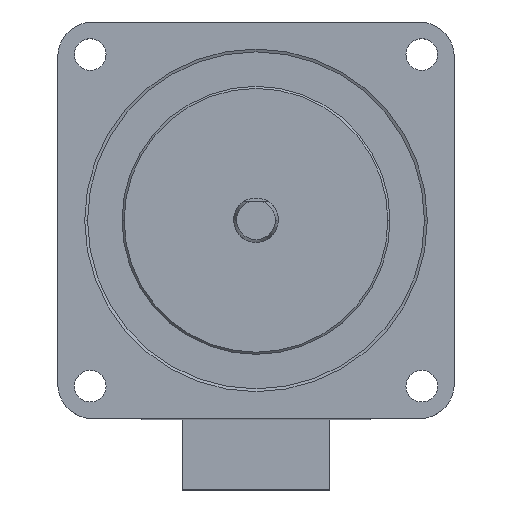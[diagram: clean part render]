
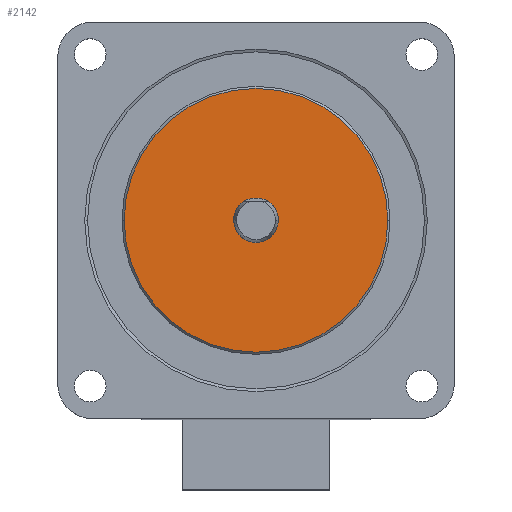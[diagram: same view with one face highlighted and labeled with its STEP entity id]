
A CAD part, top view. The second image highlights one B-rep face of the part: STEP entity #2142.
In plain terms, the highlighted planar face has unit normal (0, 0, 1).
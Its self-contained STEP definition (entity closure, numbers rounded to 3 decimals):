
#106 = DIRECTION ( 'NONE',  ( -1., 0., 0. ) ) ;
#118 = CARTESIAN_POINT ( 'NONE',  ( -3.175, 0., 0. ) ) ;
#152 = DIRECTION ( 'NONE',  ( 0., 0., 1. ) ) ;
#163 = CIRCLE ( 'NONE', #1054, 18.75 ) ;
#182 = EDGE_LOOP ( 'NONE', ( #337, #1226 ) ) ;
#257 = CARTESIAN_POINT ( 'NONE',  ( 3.175, 0., 0. ) ) ;
#337 = ORIENTED_EDGE ( 'NONE', *, *, #1110, .T. ) ;
#361 = DIRECTION ( 'NONE',  ( 0., 0., 1. ) ) ;
#383 = EDGE_CURVE ( 'NONE', #1322, #864, #1942, .T. ) ;
#470 = VERTEX_POINT ( 'NONE', #1115 ) ;
#591 = CARTESIAN_POINT ( 'NONE',  ( 0., 0., 0. ) ) ;
#595 = EDGE_LOOP ( 'NONE', ( #1646, #1286 ) ) ;
#626 = CARTESIAN_POINT ( 'NONE',  ( 0., 0., 0. ) ) ;
#798 = EDGE_CURVE ( 'NONE', #470, #1694, #1034, .T. ) ;
#864 = VERTEX_POINT ( 'NONE', #118 ) ;
#926 = DIRECTION ( 'NONE',  ( -1., 0., 0. ) ) ;
#948 = DIRECTION ( 'NONE',  ( -1., 0., 0. ) ) ;
#1007 = FACE_BOUND ( 'NONE', #595, .T. ) ;
#1034 = CIRCLE ( 'NONE', #1789, 18.75 ) ;
#1054 = AXIS2_PLACEMENT_3D ( 'NONE', #626, #152, #2220 ) ;
#1110 = EDGE_CURVE ( 'NONE', #1694, #470, #163, .T. ) ;
#1115 = CARTESIAN_POINT ( 'NONE',  ( 18.75, 0., 0. ) ) ;
#1153 = DIRECTION ( 'NONE',  ( 0., 0., -1. ) ) ;
#1178 = DIRECTION ( 'NONE',  ( 0., 0., -1. ) ) ;
#1226 = ORIENTED_EDGE ( 'NONE', *, *, #798, .T. ) ;
#1286 = ORIENTED_EDGE ( 'NONE', *, *, #383, .T. ) ;
#1322 = VERTEX_POINT ( 'NONE', #257 ) ;
#1375 = DIRECTION ( 'NONE',  ( -1., 0., 0. ) ) ;
#1435 = CARTESIAN_POINT ( 'NONE',  ( 0., 0., 0. ) ) ;
#1438 = FACE_OUTER_BOUND ( 'NONE', #182, .T. ) ;
#1494 = AXIS2_PLACEMENT_3D ( 'NONE', #1435, #1178, #948 ) ;
#1545 = CARTESIAN_POINT ( 'NONE',  ( -18.75, 0., 0. ) ) ;
#1623 = DIRECTION ( 'NONE',  ( 0., 0., -1. ) ) ;
#1624 = AXIS2_PLACEMENT_3D ( 'NONE', #1854, #1623, #1375 ) ;
#1646 = ORIENTED_EDGE ( 'NONE', *, *, #2101, .T. ) ;
#1655 = CARTESIAN_POINT ( 'NONE',  ( 0., 0., 0. ) ) ;
#1694 = VERTEX_POINT ( 'NONE', #1545 ) ;
#1789 = AXIS2_PLACEMENT_3D ( 'NONE', #591, #361, #106 ) ;
#1854 = CARTESIAN_POINT ( 'NONE',  ( 0., 0., 0. ) ) ;
#1860 = AXIS2_PLACEMENT_3D ( 'NONE', #1655, #1153, #926 ) ;
#1942 = CIRCLE ( 'NONE', #1860, 3.175 ) ;
#1971 = CIRCLE ( 'NONE', #1494, 3.175 ) ;
#2088 = PLANE ( 'NONE',  #1624 ) ;
#2101 = EDGE_CURVE ( 'NONE', #864, #1322, #1971, .T. ) ;
#2142 = ADVANCED_FACE ( 'NONE', ( #1438, #1007 ), #2088, .F. ) ;
#2220 = DIRECTION ( 'NONE',  ( -1., 0., 0. ) ) ;
